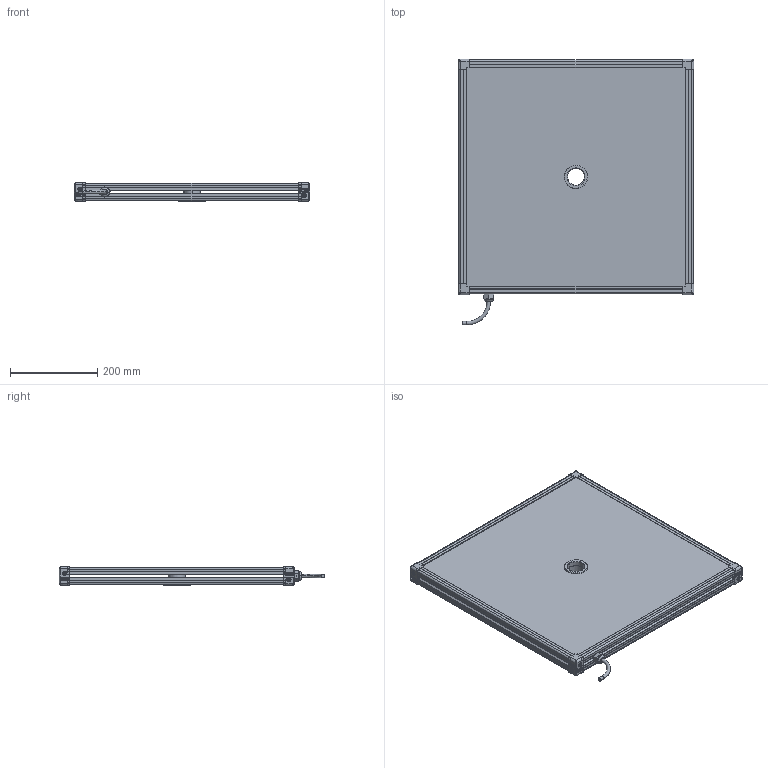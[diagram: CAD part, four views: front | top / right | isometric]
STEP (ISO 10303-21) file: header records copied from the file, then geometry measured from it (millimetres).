
FILE_DESCRIPTION (( 'STEP AP214' ), '1' );
FILE_NAME ('EFFI-FD-500-500-XXX.STEP', '2018-07-23T14:50:43', ( '' ), ( '' ), 'SwSTEP 2.0', 'SolidWorks 2018', '' );
FILE_SCHEMA (( 'AUTOMOTIVE_DESIGN' ));
Length unit declared in the file: millimetre
Products named in the file (1): EFFI-FD-500-500-XXX
Bounding box: 539.5 x 609.05 x 43.2 mm (x, y, z)
Surface area: 739643.3 mm2 (no closed solid volume)
Topology: 0 solids, 57 shells, 552 faces, 4195 edges, 3612 vertices
Faces by surface type: plane 369, cylinder 103, bspline 62, torus 16, cone 2
Entity records: 53753 total; most frequent: CARTESIAN_POINT 18555, DIRECTION 5078, ORIENTED_EDGE 5029, EDGE_CURVE 4187, VERTEX_POINT 3612, VECTOR 3266, LINE 3266, EDGE_LOOP 907
